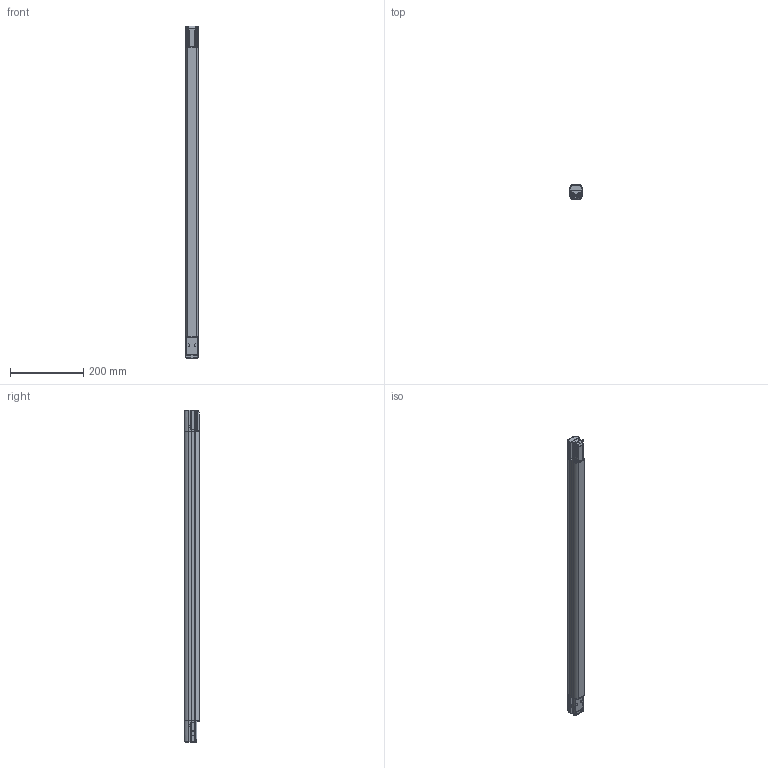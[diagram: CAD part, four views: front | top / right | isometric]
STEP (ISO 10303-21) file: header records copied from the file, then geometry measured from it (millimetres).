
FILE_DESCRIPTION(/* description */ (''),/* implementation_level */ '2;1');
FILE_NAME(/* name */ 'SH4 - 0900 mm DSD Barriera senza Smart Plug.stp',/* time_stamp */ '2022-12-02T18:28:16+01:00',/* author */ (''),/* organization */ (''),/* preprocessor_version */ 'ST-DEVELOPER v16.701',/* originating_system */ 'SIEMENS PLM Software NX 1946',/* authorisation */ '');
FILE_SCHEMA (('AP203_CONFIGURATION_CONTROLLED_3D_DESIGN_OF_MECHANICAL_PARTS_AND_ASSEMBLIES_MIM_LF { 1 0 10303 403 2 1 2}'));
Length unit declared in the file: millimetre
Products named in the file (1): MRos63D4F2E59wxw
Bounding box: 35.08 x 40 x 909 mm (x, y, z)
Volume: 1055735.2 mm3; surface area: 217712.8 mm2
Topology: 6 solids, 11 shells, 891 faces, 2428 edges, 1549 vertices
Faces by surface type: plane 363, cylinder 315, bspline 92, cone 55, extrusion 24, sphere 22, torus 20
Full cylindrical faces by diameter (mm): 2.013 x4, 2.2 x4, 3 x4, 4.37 x4, 5 x8
Entity records: 34734 total; most frequent: CARTESIAN_POINT 13104, ORIENTED_EDGE 4576, DIRECTION 3865, EDGE_CURVE 2288, VERTEX_POINT 1515, AXIS2_PLACEMENT_3D 1345, VECTOR 1175, LINE 1151
